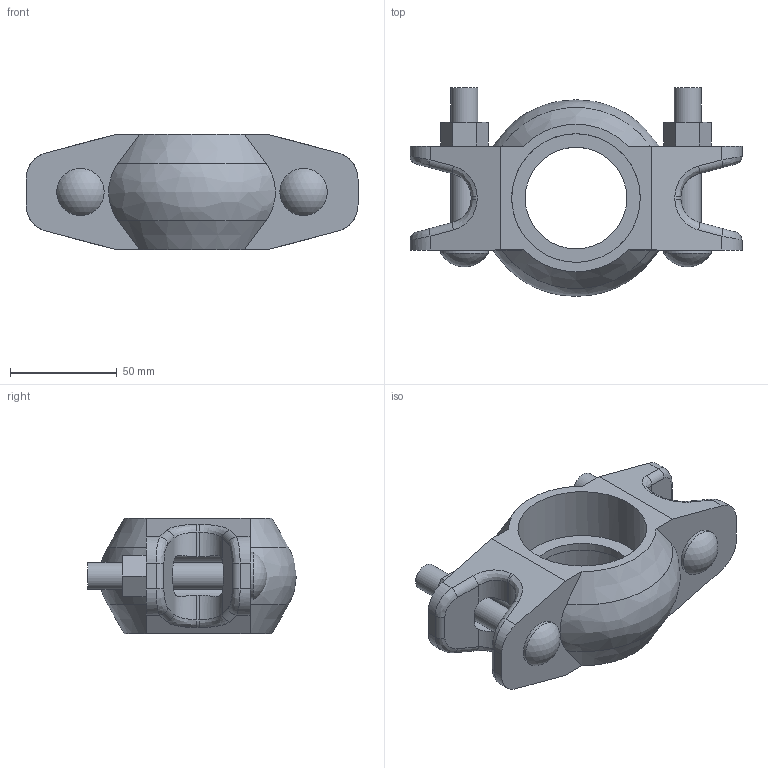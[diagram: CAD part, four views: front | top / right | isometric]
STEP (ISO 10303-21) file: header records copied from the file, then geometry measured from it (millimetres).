
FILE_DESCRIPTION(/* description */ ('QUICKVIC RIGID COUPLING FOR STEEL STYLE 107N','CAx-IF Rec.Pracs.---Representation and Presentation of Product Manufacturing Information (PMI)---4.0---2014-10-13'),/* implementation_level */ '2;1');
FILE_NAME(/* name */ 'C:\Users\Vjadhav\Desktop\CAD for Inventor\1\Coupling bolt thickness\107N\STEP\Victaulic_IPS_Coupling Rigid_Style 107N (OGS)\Victaulic_IPS_Coupling Rigid_Style 107N (OGS)_2 (50).stp',/* time_stamp */ '2022-03-28T14:18:56+06:00',/* author */ ('jheald'),/* organization */ ('Victaulic'),/* preprocessor_version */ 'ST-DEVELOPER v17.2',/* originating_system */ 'Autodesk Inventor 2019',/* authorisation */ '');
FILE_SCHEMA (('AP242_MANAGED_MODEL_BASED_3D_ENGINEERING_MIM_LF { 1 0 10303 442 1 1 4 }'));
Length unit declared in the file: inch
Products named in the file (1): 107N-02.0
Bounding box: 155.7 x 97.92 x 54.1 mm (x, y, z)
Volume: 259782.2 mm3; surface area: 53774.1 mm2
Topology: 1 solids, 1 shells, 123 faces, 327 edges, 210 vertices
Faces by surface type: plane 50, cylinder 45, bspline 18, cone 4, torus 4, sphere 2
Full cylindrical faces by diameter (mm): 12.7 x4, 22.225 x2, 47.625 x1, 60.325 x2
Entity records: 4712 total; most frequent: CARTESIAN_POINT 1374, DIRECTION 671, ORIENTED_EDGE 654, EDGE_CURVE 327, AXIS2_PLACEMENT_3D 253, VERTEX_POINT 210, LINE 165, VECTOR 165
